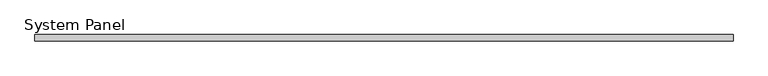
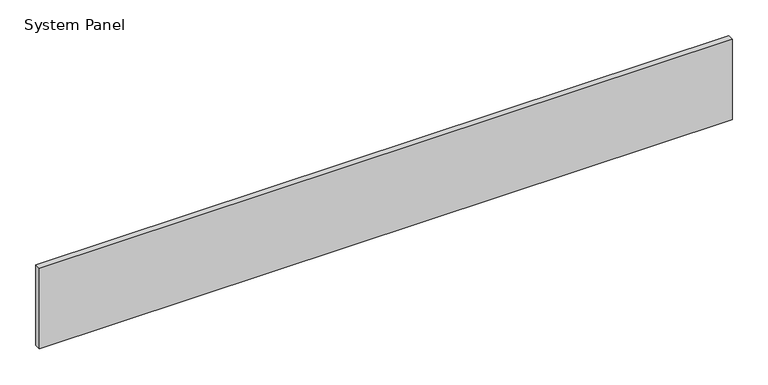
"""IFC4 building model written with IfcOpenShell, lengths in millimetres: plate geometry, System Panel : VACÍO."""

from ifc_helpers import new_model, si_unit, origin, origin_with_axes, place, context, project, spatial, polyline, outline, extrude, source, transform, mapped, element, save


def system_panel_09b09f1b(model_context):
    return source(origin(), model_context, "Body", "SweptSolid", [
        extrude(outline(polyline([(557.6350437, -5.0), (-557.6350437, -5.0), (-557.6350437, 5.0), (557.6350437, 5.0), (557.6350437, -5.0)])), origin_with_axes(), (0.0, 0.0, 1.0), 137.033564),
    ])


if __name__ == "__main__":
    model = new_model("IFC4")
    model_context = context("Model", 3, world=origin())
    ifc_project = project(units=[si_unit("LENGTHUNIT", "METRE", prefix="MILLI")], contexts=[model_context])
    site = spatial("IfcSite", under=ifc_project)
    building = spatial("IfcBuilding", under=site)
    placement = place(None, origin())
    system_panel_shape = system_panel_09b09f1b(model_context)
    element("IfcPlate", 1, ObjectType="System Panel : VACÍO", at=placement, inside=building, context=model_context, shape_type="MappedRepresentation", body=[
        mapped(system_panel_shape, transform((0.0, 0.0, 0.0), x_axis=(1.0, 0.0, 0.0), y_axis=(0.0, 1.0, 0.0), z_axis=(0.0, 0.0, 1.0))),
    ])
    save(model, "model.ifc")
